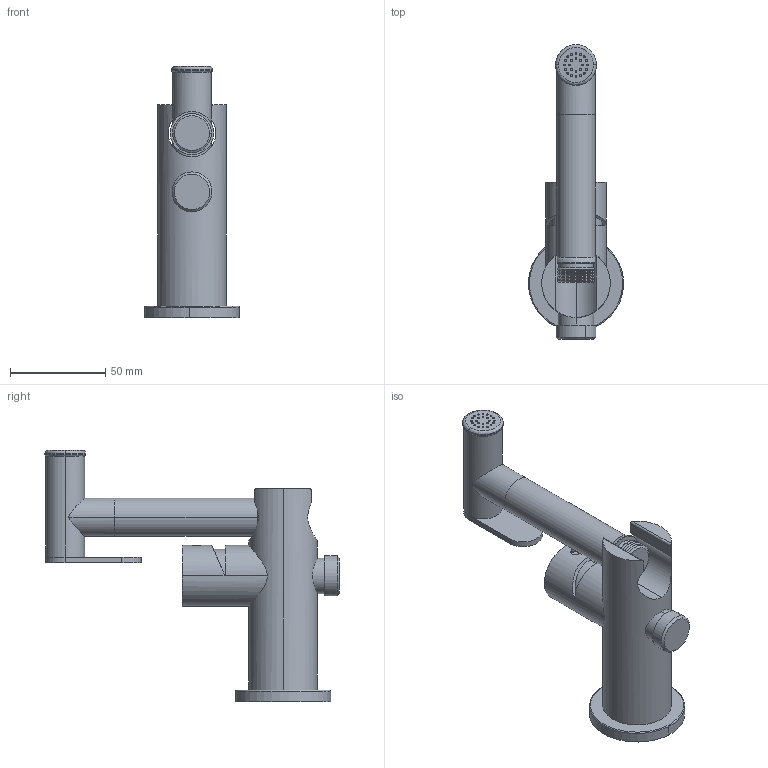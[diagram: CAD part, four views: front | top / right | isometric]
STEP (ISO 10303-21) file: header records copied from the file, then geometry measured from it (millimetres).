
FILE_DESCRIPTION (( 'STEP AP214' ), '1' );
FILE_NAME ('12233510 x architetti.STEP', '2024-05-10T07:02:13', ( '' ), ( '' ), 'SwSTEP 2.0', 'SolidWorks 2020', '' );
FILE_SCHEMA (( 'AUTOMOTIVE_DESIGN' ));
Length unit declared in the file: millimetre
Products named in the file (1): 12233510 x architetti
Bounding box: 49.91 x 154.7 x 131.85 mm (x, y, z)
Volume: 185412.5 mm3; surface area: 40727.5 mm2
Topology: 4 solids, 6 shells, 180 faces, 367 edges, 230 vertices
Faces by surface type: cylinder 99, plane 51, cone 22, bspline 6, torus 2
Entity records: 7461 total; most frequent: CARTESIAN_POINT 1588, DIRECTION 895, ORIENTED_EDGE 734, AXIS2_PLACEMENT_3D 379, EDGE_CURVE 367, VERTEX_POINT 230, EDGE_LOOP 215, CIRCLE 204
